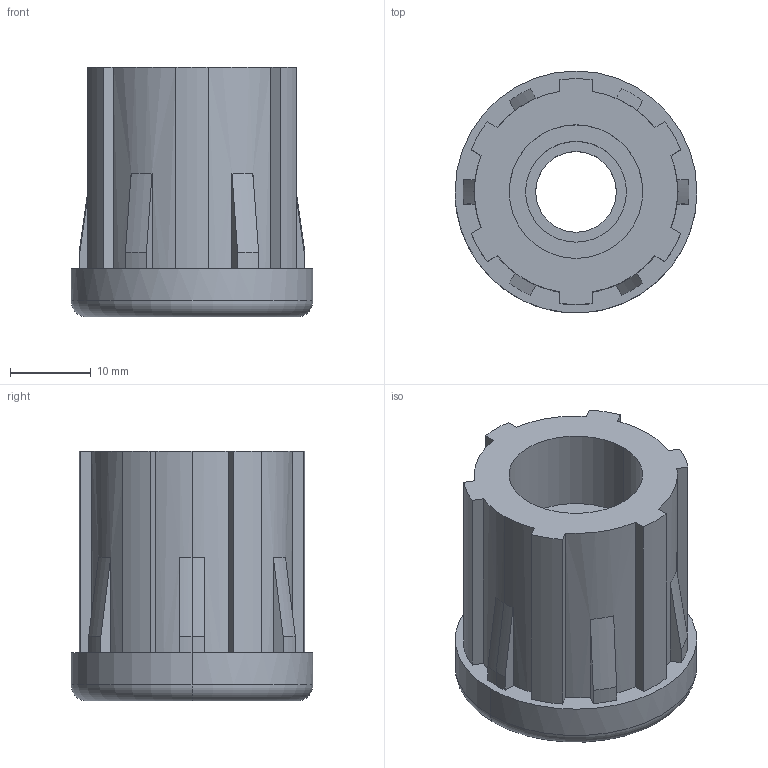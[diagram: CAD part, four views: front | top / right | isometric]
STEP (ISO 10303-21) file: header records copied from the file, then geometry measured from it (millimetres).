
FILE_DESCRIPTION(('STEP AP214'),'1');
FILE_NAME('42006430110.stp','2016-01-21T10:55:31',(' '),(' '),'Spatial InterOp 3D',' ',' ');
FILE_SCHEMA(('automotive_design'));
Length unit declared in the file: millimetre
Products named in the file (4): 42006430110; Disegno1; 64_80857; Component1
Assembly tree (3 placements, depth 3):
  42006430110
    Disegno1
    64_80857
      Component1
Bounding box: 30 x 30 x 31 mm (x, y, z)
Volume: 13249.5 mm3; surface area: 6638.5 mm2
Topology: 2 solids, 2 shells, 85 faces, 219 edges, 141 vertices
Faces by surface type: cylinder 36, plane 31, cone 14, torus 4
Entity records: 3397 total; most frequent: DIRECTION 484, CARTESIAN_POINT 474, ORIENTED_EDGE 438, EDGE_CURVE 219, AXIS2_PLACEMENT_3D 187, VERTEX_POINT 141, LINE 110, VECTOR 110
